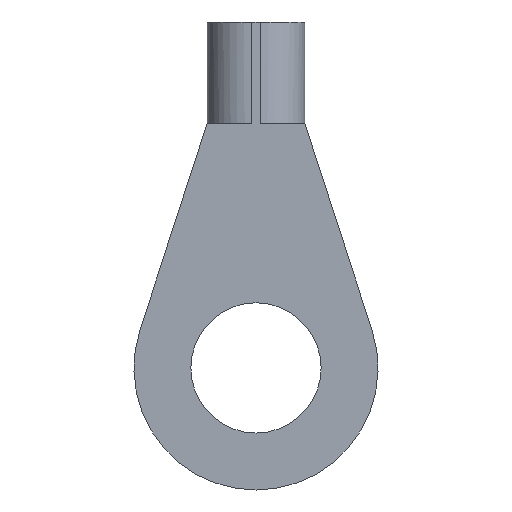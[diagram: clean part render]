
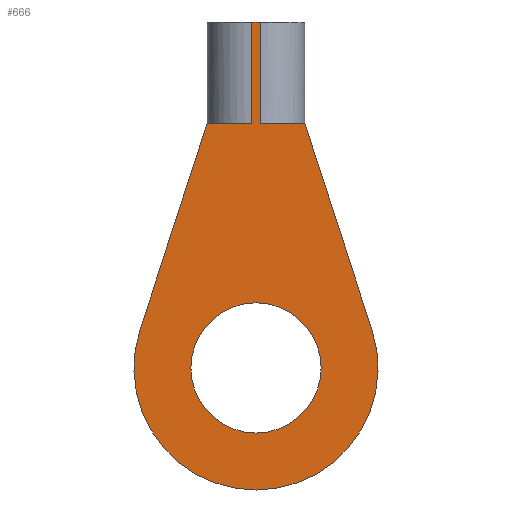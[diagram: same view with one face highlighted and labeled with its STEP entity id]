
A CAD part, front view. The second image highlights one B-rep face of the part: STEP entity #666.
In plain terms, the highlighted planar face has unit normal (0, -1, 0).
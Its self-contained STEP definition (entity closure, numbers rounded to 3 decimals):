
#54 = CARTESIAN_POINT ( 'NONE',  ( -1.4, -1., 0. ) ) ;
#55 = DIRECTION ( 'NONE',  ( 1., 0., 0. ) ) ;
#120 = LINE ( 'NONE', #54, #123 ) ;
#123 = VECTOR ( 'NONE', #55, 1000. ) ;
#132 = LINE ( 'NONE', #221, #135 ) ;
#134 = LINE ( 'NONE', #225, #141 ) ;
#135 = VECTOR ( 'NONE', #223, 1000. ) ;
#136 = LINE ( 'NONE', #222, #138 ) ;
#137 = LINE ( 'NONE', #229, #139 ) ;
#138 = VECTOR ( 'NONE', #209, 1000. ) ;
#139 = VECTOR ( 'NONE', #231, 1000. ) ;
#140 = CIRCLE ( 'NONE', #357, 6. ) ;
#141 = VECTOR ( 'NONE', #232, 1000. ) ;
#142 = VECTOR ( 'NONE', #224, 1000. ) ;
#152 = CARTESIAN_POINT ( 'NONE',  ( 0., -1., -13.8 ) ) ;
#161 = CARTESIAN_POINT ( 'NONE',  ( 0., -1., -20.2 ) ) ;
#179 = CARTESIAN_POINT ( 'NONE',  ( -0.2, -1., 0. ) ) ;
#209 = DIRECTION ( 'NONE',  ( 0., 0., 1. ) ) ;
#221 = CARTESIAN_POINT ( 'NONE',  ( 0.2, -1., -5. ) ) ;
#222 = CARTESIAN_POINT ( 'NONE',  ( -0.2, -1., -5. ) ) ;
#223 = DIRECTION ( 'NONE',  ( 0., 0., 1. ) ) ;
#224 = DIRECTION ( 'NONE',  ( 0.31, 0., -0.951 ) ) ;
#225 = CARTESIAN_POINT ( 'NONE',  ( -5.705, -1., -15.141 ) ) ;
#229 = CARTESIAN_POINT ( 'NONE',  ( -2.4, -1., -5. ) ) ;
#230 = CARTESIAN_POINT ( 'NONE',  ( 2.4, -1., -5. ) ) ;
#231 = DIRECTION ( 'NONE',  ( 1., 0., 0. ) ) ;
#232 = DIRECTION ( 'NONE',  ( 0.31, 0., 0.951 ) ) ;
#233 = CARTESIAN_POINT ( 'NONE',  ( 0., -1., -17. ) ) ;
#234 = DIRECTION ( 'NONE',  ( 0., 1., 0. ) ) ;
#235 = DIRECTION ( 'NONE',  ( 0., 0., 1. ) ) ;
#236 = CARTESIAN_POINT ( 'NONE',  ( -2.4, -1., -5. ) ) ;
#237 = DIRECTION ( 'NONE',  ( 1., 0., 0. ) ) ;
#240 = CARTESIAN_POINT ( 'NONE',  ( 0., -1., -17. ) ) ;
#241 = DIRECTION ( 'NONE',  ( 0., 1., 0. ) ) ;
#242 = DIRECTION ( 'NONE',  ( 0., 0., 1. ) ) ;
#357 = AXIS2_PLACEMENT_3D ( 'NONE', #233, #234, #235 ) ;
#360 = AXIS2_PLACEMENT_3D ( 'NONE', #240, #241, #242 ) ;
#365 = VERTEX_POINT ( 'NONE', #152 ) ;
#374 = VERTEX_POINT ( 'NONE', #161 ) ;
#378 = EDGE_LOOP ( 'NONE', ( #846, #1169, #1165, #1189, #823, #1185, #1190, #824 ) ) ;
#382 = EDGE_LOOP ( 'NONE', ( #1095, #1079 ) ) ;
#430 = FACE_OUTER_BOUND ( 'NONE', #378, .T. ) ;
#436 = FACE_BOUND ( 'NONE', #382, .T. ) ;
#444 = CIRCLE ( 'NONE', #683, 3.2 ) ;
#488 = LINE ( 'NONE', #230, #142 ) ;
#518 = VERTEX_POINT ( 'NONE', #179 ) ;
#593 = DIRECTION ( 'NONE',  ( 0., -1., 0. ) ) ;
#596 = CARTESIAN_POINT ( 'NONE',  ( -1.4, -1., -5. ) ) ;
#598 = PLANE ( 'NONE',  #697 ) ;
#600 = DIRECTION ( 'NONE',  ( 0., 0., -1. ) ) ;
#612 = LINE ( 'NONE', #236, #613 ) ;
#613 = VECTOR ( 'NONE', #237, 1000. ) ;
#615 = CIRCLE ( 'NONE', #360, 3.2 ) ;
#666 = ADVANCED_FACE ( 'NONE', ( #430, #436 ), #598, .T. ) ;
#683 = AXIS2_PLACEMENT_3D ( 'NONE', #941, #942, #943 ) ;
#687 = EDGE_CURVE ( 'NONE', #374, #365, #444, .T. ) ;
#697 = AXIS2_PLACEMENT_3D ( 'NONE', #596, #593, #600 ) ;
#766 = VERTEX_POINT ( 'NONE', #952 ) ;
#767 = VERTEX_POINT ( 'NONE', #951 ) ;
#768 = VERTEX_POINT ( 'NONE', #953 ) ;
#769 = VERTEX_POINT ( 'NONE', #950 ) ;
#771 = VERTEX_POINT ( 'NONE', #944 ) ;
#772 = VERTEX_POINT ( 'NONE', #955 ) ;
#773 = VERTEX_POINT ( 'NONE', #956 ) ;
#823 = ORIENTED_EDGE ( 'NONE', *, *, #1038, .F. ) ;
#824 = ORIENTED_EDGE ( 'NONE', *, *, #1033, .T. ) ;
#846 = ORIENTED_EDGE ( 'NONE', *, *, #1025, .F. ) ;
#941 = CARTESIAN_POINT ( 'NONE',  ( 0., -1., -17. ) ) ;
#942 = DIRECTION ( 'NONE',  ( 0., 1., 0. ) ) ;
#943 = DIRECTION ( 'NONE',  ( 0., 0., 1. ) ) ;
#944 = CARTESIAN_POINT ( 'NONE',  ( 2.4, -1., -5. ) ) ;
#950 = CARTESIAN_POINT ( 'NONE',  ( -2.4, -1., -5. ) ) ;
#951 = CARTESIAN_POINT ( 'NONE',  ( 0.2, -1., -5. ) ) ;
#952 = CARTESIAN_POINT ( 'NONE',  ( 0.2, -1., 0. ) ) ;
#953 = CARTESIAN_POINT ( 'NONE',  ( 5.705, -1., -15.141 ) ) ;
#955 = CARTESIAN_POINT ( 'NONE',  ( -5.705, -1., -15.141 ) ) ;
#956 = CARTESIAN_POINT ( 'NONE',  ( -0.2, -1., -5. ) ) ;
#1025 = EDGE_CURVE ( 'NONE', #518, #766, #120, .T. ) ;
#1033 = EDGE_CURVE ( 'NONE', #767, #766, #132, .T. ) ;
#1035 = EDGE_CURVE ( 'NONE', #773, #518, #136, .T. ) ;
#1036 = EDGE_CURVE ( 'NONE', #769, #773, #137, .T. ) ;
#1037 = EDGE_CURVE ( 'NONE', #772, #769, #134, .T. ) ;
#1038 = EDGE_CURVE ( 'NONE', #768, #772, #140, .T. ) ;
#1039 = EDGE_CURVE ( 'NONE', #771, #768, #488, .T. ) ;
#1040 = EDGE_CURVE ( 'NONE', #767, #771, #612, .T. ) ;
#1041 = EDGE_CURVE ( 'NONE', #365, #374, #615, .T. ) ;
#1079 = ORIENTED_EDGE ( 'NONE', *, *, #687, .T. ) ;
#1095 = ORIENTED_EDGE ( 'NONE', *, *, #1041, .T. ) ;
#1165 = ORIENTED_EDGE ( 'NONE', *, *, #1036, .F. ) ;
#1169 = ORIENTED_EDGE ( 'NONE', *, *, #1035, .F. ) ;
#1185 = ORIENTED_EDGE ( 'NONE', *, *, #1039, .F. ) ;
#1189 = ORIENTED_EDGE ( 'NONE', *, *, #1037, .F. ) ;
#1190 = ORIENTED_EDGE ( 'NONE', *, *, #1040, .F. ) ;
